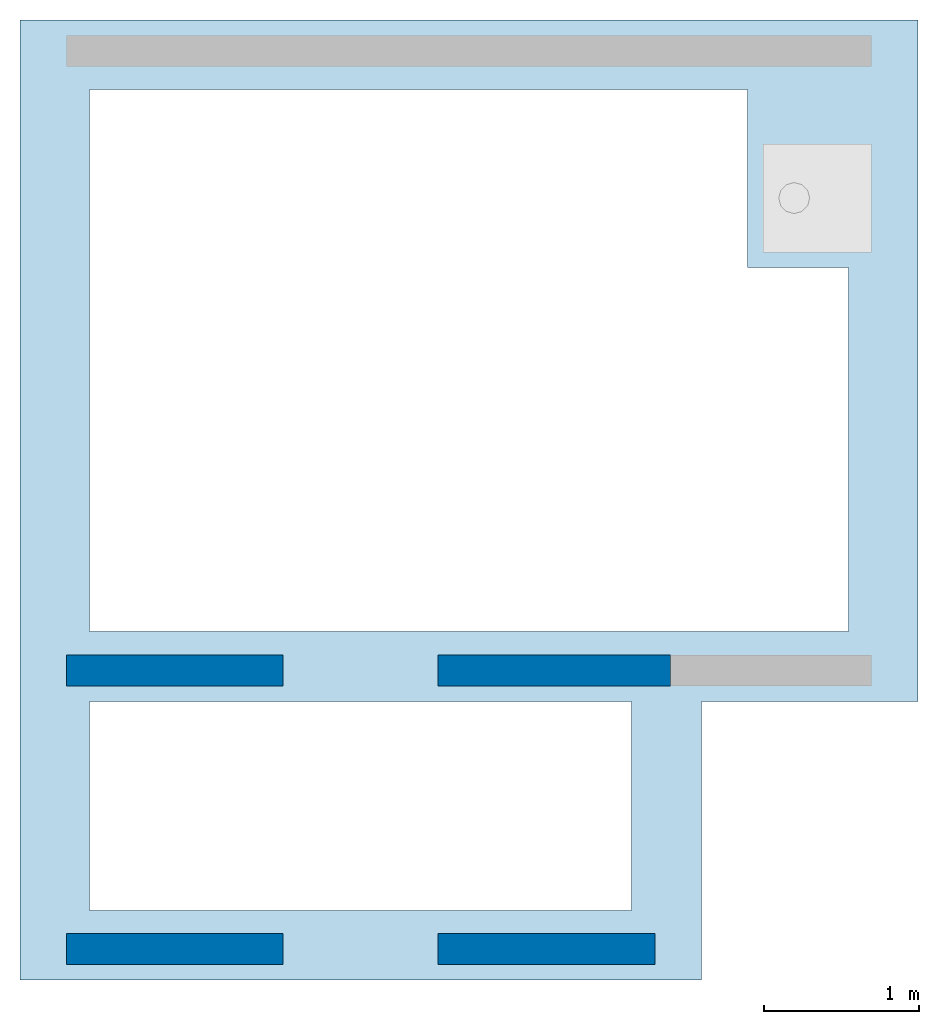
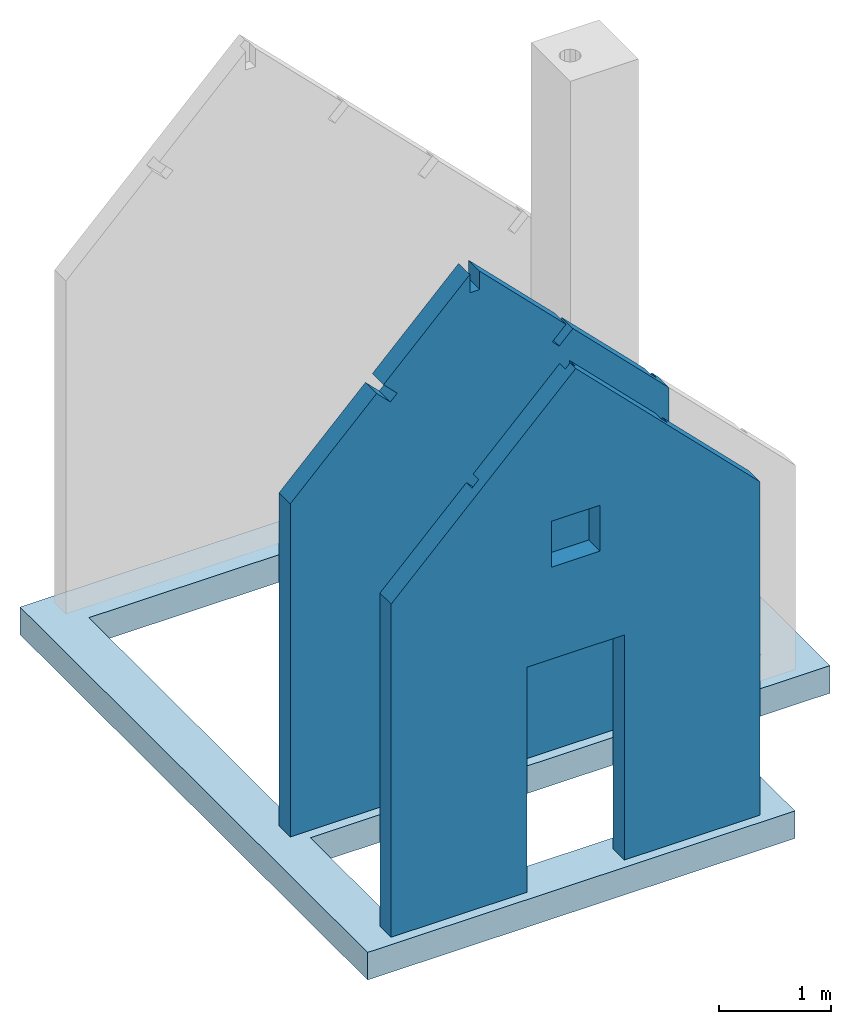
# One storey, part 1 of 2: 2 walls, 1 footing.
"""IFC4 building model written with IfcOpenShell, lengths in millimetres."""

from ifc_helpers import new_model, si_unit, frame, origin_with_axes, place, context, subcontext, project, spatial, triangles, material, type_object, element, save


model = new_model("IFC4")

# Units and contexts
model_context = context("Model", 3, world=origin_with_axes())
body_context = subcontext(model_context, "Body", "Model", "MODEL_VIEW")
ifc_project = project(units=[si_unit("LENGTHUNIT", "METRE", prefix="MILLI"), si_unit("AREAUNIT", "SQUARE_METRE"), si_unit("VOLUMEUNIT", "CUBIC_METRE")], contexts=[model_context])

# Sites, building, storey
site_1_placement = place(None, origin_with_axes())
site_1 = spatial("IfcSite", under=ifc_project, at=site_1_placement, Name="environment - site", CompositionType="COMPLEX")
site_2_placement = place(site_1_placement, frame((5800.000000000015, 5800.000000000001, -1300.0000000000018), z_axis=(0.0, 0.0, 1.0), x_axis=(1.0, 0.0, 0.0)))
site_2 = spatial("IfcSite", under=site_1, at=site_2_placement, Name="house - site", CompositionType="PARTIAL")
building_placement = place(site_2_placement, frame((-2799.999999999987, -2799.9999999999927, 1300.0), z_axis=(0.0, 0.0, 1.0), x_axis=(1.0, 0.0, 0.0)))
building = spatial("IfcBuilding", under=site_2, at=building_placement, Name="Single-family house", CompositionType="ELEMENT")
storey_placement = place(building_placement, origin_with_axes())
storey = spatial("IfcBuildingStorey", under=building, at=storey_placement, Name="00 groundfloor", CompositionType="ELEMENT", Elevation=-1.8047785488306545e-12)

# Footing
ifc_material_1 = material(Name="concrete_reinforced_in-situ")
footing_type = type_object("IfcFootingType", Name="house - foundation", PredefinedType="STRIP_FOOTING")
footing_placement = place(storey_placement, frame((0.0, 2.5988811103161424e-11, -499.9999999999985), z_axis=(0.0, 0.0, 1.0), x_axis=(1.0, 0.0, 0.0)))
element("IfcFooting", 1, at=footing_placement, inside=storey, type_object=footing_type, material=ifc_material_1, Name="house - foundation", ObjectType="strip_footing", context=body_context, shape_type="Tessellation", body=[
    triangles([(4300.00000000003, -100.00000000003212, 249.99999999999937), (-100.00000000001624, -100.00000000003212, -50.00000000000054), (4300.00000000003, -100.00000000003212, -50.00000000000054), (-100.00000000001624, -100.00000000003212, 249.99999999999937), (350.0000000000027, 349.9999999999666, -50.00000000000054), (3850.000000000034, 349.9999999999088, 249.99999999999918), (3850.000000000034, 349.9999999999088, -50.00000000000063), (350.0000000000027, 349.9999999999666, 249.9999999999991), (350.0000000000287, 1699.999999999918, -50.00000000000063), (350.0000000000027, 349.9999999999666, 249.9999999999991), (350.0000000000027, 349.9999999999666, -50.00000000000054), (350.0000000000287, 1699.999999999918, 249.9999999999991), (3850.000000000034, 1699.9999999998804, -50.00000000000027), (350.0000000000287, 1699.999999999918, 249.9999999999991), (350.0000000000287, 1699.999999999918, -50.00000000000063), (3850.000000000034, 1699.9999999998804, 249.9999999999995), (350.0000000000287, 2149.999999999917, 249.99999999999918), (5250.000000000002, 2149.9999999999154, -49.99999999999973), (350.0000000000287, 2149.999999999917, -50.00000000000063), (5250.000000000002, 2149.9999999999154, 250.00000000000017), (350.00000000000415, 5649.999999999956, -50.000000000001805), (350.0000000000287, 2149.999999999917, 249.99999999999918), (350.0000000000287, 2149.999999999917, -50.00000000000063), (350.00000000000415, 5649.999999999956, 249.99999999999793), (3850.000000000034, 1699.9999999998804, 249.9999999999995), (3850.000000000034, 349.9999999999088, -50.00000000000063), (3850.000000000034, 349.9999999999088, 249.99999999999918), (3850.000000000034, 1699.9999999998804, -50.00000000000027), (4300.000000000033, 1699.9999999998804, -50.00000000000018), (4300.00000000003, -100.00000000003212, 249.99999999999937), (4300.00000000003, -100.00000000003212, -50.00000000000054), (4300.000000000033, 1699.9999999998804, 249.99999999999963), (5700.0, 1699.9999999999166, 249.9999999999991), (4300.000000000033, 1699.9999999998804, -50.00000000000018), (5700.0, 1699.9999999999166, -50.00000000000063), (4300.000000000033, 1699.9999999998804, 249.99999999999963), (-100.00000000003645, 6099.999999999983, 249.99999999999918), (-100.00000000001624, -100.00000000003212, -50.00000000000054), (-100.00000000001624, -100.00000000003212, 249.99999999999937), (-100.00000000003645, 6099.999999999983, -50.00000000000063), (-100.00000000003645, 6099.999999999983, -50.00000000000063), (350.00000000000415, 5649.999999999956, -50.000000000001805), (-100.00000000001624, -100.00000000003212, -50.00000000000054), (5700.000000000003, 6099.999999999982, -50.00000000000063), (350.0000000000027, 349.9999999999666, -50.00000000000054), (4600.000000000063, 5649.999999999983, -50.00000000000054), (4600.000000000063, 4499.999999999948, -49.99999999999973), (5250.000000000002, 4499.999999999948, -50.00000000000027), (5250.000000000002, 2149.9999999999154, -49.99999999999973), (5700.0, 1699.9999999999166, -50.00000000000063), (350.0000000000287, 1699.999999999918, -50.00000000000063), (350.0000000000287, 2149.999999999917, -50.00000000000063), (3850.000000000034, 1699.9999999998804, -50.00000000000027), (4300.000000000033, 1699.9999999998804, -50.00000000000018), (3850.000000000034, 349.9999999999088, -50.00000000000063), (4300.00000000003, -100.00000000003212, -50.00000000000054), (4300.00000000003, -100.00000000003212, 249.99999999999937), (350.0000000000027, 349.9999999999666, 249.9999999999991), (-100.00000000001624, -100.00000000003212, 249.99999999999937), (3850.000000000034, 349.9999999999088, 249.99999999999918), (3850.000000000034, 1699.9999999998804, 249.9999999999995), (5250.000000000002, 4499.999999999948, 249.99999999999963), (4600.000000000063, 5649.999999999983, 249.99999999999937), (4600.000000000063, 4499.999999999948, 250.00000000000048), (350.0000000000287, 1699.999999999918, 249.9999999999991), (350.00000000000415, 5649.999999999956, 249.99999999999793), (350.0000000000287, 2149.999999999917, 249.99999999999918), (5250.000000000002, 2149.9999999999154, 250.00000000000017), (4300.000000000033, 1699.9999999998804, 249.99999999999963), (5700.0, 1699.9999999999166, 249.9999999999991), (-100.00000000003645, 6099.999999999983, 249.99999999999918), (5700.000000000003, 6099.999999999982, 249.99999999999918), (4600.000000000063, 5649.999999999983, -50.00000000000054), (350.00000000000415, 5649.999999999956, 249.99999999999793), (350.00000000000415, 5649.999999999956, -50.000000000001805), (4600.000000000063, 5649.999999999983, 249.99999999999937), (-100.00000000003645, 6099.999999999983, 249.99999999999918), (5700.000000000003, 6099.999999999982, -50.00000000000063), (-100.00000000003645, 6099.999999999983, -50.00000000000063), (5700.000000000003, 6099.999999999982, 249.99999999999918), (5700.000000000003, 6099.999999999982, -50.00000000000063), (5700.0, 1699.9999999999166, 249.9999999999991), (5700.0, 1699.9999999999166, -50.00000000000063), (5700.000000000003, 6099.999999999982, 249.99999999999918), (5250.000000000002, 4499.999999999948, 249.99999999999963), (5250.000000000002, 2149.9999999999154, -49.99999999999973), (5250.000000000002, 2149.9999999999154, 250.00000000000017), (5250.000000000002, 4499.999999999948, -50.00000000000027), (4600.000000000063, 5649.999999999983, 249.99999999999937), (4600.000000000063, 4499.999999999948, -49.99999999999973), (4600.000000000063, 4499.999999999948, 250.00000000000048), (4600.000000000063, 5649.999999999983, -50.00000000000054), (5250.000000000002, 4499.999999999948, 249.99999999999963), (4600.000000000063, 4499.999999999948, -49.99999999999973), (5250.000000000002, 4499.999999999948, -50.00000000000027), (4600.000000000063, 4499.999999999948, 250.00000000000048)], [[1, 2, 3], [2, 1, 4], [5, 6, 7], [6, 5, 8], [9, 10, 11], [10, 9, 12], [13, 14, 15], [14, 13, 16], [17, 18, 19], [18, 17, 20], [21, 22, 23], [22, 21, 24], [25, 26, 27], [26, 25, 28], [29, 30, 31], [30, 29, 32], [33, 34, 35], [34, 33, 36], [37, 38, 39], [38, 37, 40], [41, 42, 43], [42, 41, 44], [43, 42, 45], [42, 44, 46], [46, 44, 47], [47, 44, 48], [48, 44, 49], [49, 44, 50], [42, 51, 45], [51, 42, 52], [51, 52, 49], [51, 49, 53], [53, 49, 54], [53, 54, 55], [55, 54, 56], [54, 49, 50], [45, 56, 43], [56, 45, 55], [57, 58, 59], [58, 57, 60], [60, 57, 61], [62, 63, 64], [65, 66, 58], [66, 65, 67], [67, 65, 61], [67, 61, 68], [68, 61, 69], [69, 61, 57], [68, 69, 70], [68, 70, 62], [71, 66, 72], [66, 71, 59], [66, 59, 58], [72, 66, 63], [72, 63, 62], [72, 62, 70], [73, 74, 75], [74, 73, 76], [77, 78, 79], [78, 77, 80], [81, 82, 83], [82, 81, 84], [85, 86, 87], [86, 85, 88], [89, 90, 91], [90, 89, 92], [93, 94, 95], [94, 93, 96]]),
])

# Walls
ifc_material_2 = material(Name="stone_sand-lime")
wall_type_1 = type_object("IfcWallType", Name="house - outer wall - house front", PredefinedType="SOLIDWALL")
wall_1_placement = place(storey_placement, frame((0.0, 0.0, 0.0), z_axis=(0.0, 0.0, 1.0), x_axis=(1.0, -7.105427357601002e-16, 0.0)))
element("IfcWall", 2, at=wall_1_placement, inside=storey, type_object=wall_type_1, material=ifc_material_2, Name="house - outer wall - house front", ObjectType="solidwall", context=body_context, shape_type="Tessellation", body=[
    triangles([(2349.9999999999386, -5.775291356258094e-11, 3200.0000000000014), (1849.999999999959, 199.99999999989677, 3200.0000000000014), (1849.9999999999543, -5.775291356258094e-11, 3200.0000000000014), (2349.999999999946, 199.99999999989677, 3200.0000000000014), (2600.000000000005, 200.0000000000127, 2200.0000000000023), (1599.9999999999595, 4.511946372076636e-13, 2200.0000000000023), (1599.9999999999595, 200.0000000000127, 2200.0000000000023), (2600.000000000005, 4.511946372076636e-13, 2200.0000000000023), (1599.9999999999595, 200.0000000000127, -250.00000000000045), (1599.9999999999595, 4.511946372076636e-13, 2200.0000000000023), (1599.9999999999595, 0.0, -250.00000000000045), (1599.9999999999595, 200.0000000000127, 2200.0000000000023), (2600.000000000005, 200.0000000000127, 2200.0000000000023), (2600.000000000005, 4.511946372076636e-13, -250.00000000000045), (2600.000000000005, 4.511946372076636e-13, 2200.0000000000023), (2600.000000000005, 200.0000000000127, -250.00000000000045), (1849.999999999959, 199.99999999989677, 3700.0000000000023), (2349.9999999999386, -5.775291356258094e-11, 3699.9999999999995), (1849.9999999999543, -5.775291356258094e-11, 3699.9999999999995), (2349.999999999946, 199.99999999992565, 3700.0000000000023), (200.0000000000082, 200.00000000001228, -250.00000000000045), (1599.9999999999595, 0.0, -250.00000000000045), (200.00000000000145, 0.0, -250.00000000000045), (1599.9999999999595, 200.0000000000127, -250.00000000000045), (1849.999999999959, 199.99999999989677, 3200.0000000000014), (1849.9999999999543, -5.775291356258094e-11, 3699.9999999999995), (1849.9999999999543, -5.775291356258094e-11, 3200.0000000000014), (1849.999999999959, 199.99999999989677, 3700.0000000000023), (2349.999999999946, 199.99999999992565, 3700.0000000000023), (2349.9999999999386, -5.775291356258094e-11, 3200.0000000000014), (2349.9999999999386, -5.775291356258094e-11, 3699.9999999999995), (2349.999999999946, 199.99999999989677, 3200.0000000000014), (2600.000000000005, 200.0000000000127, 2200.0000000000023), (4000.0000000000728, 200.00000000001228, -250.00000000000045), (2600.000000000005, 200.0000000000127, -250.00000000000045), (4000.0000000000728, 199.9999999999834, 3375.735931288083), (2349.999999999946, 199.99999999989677, 3200.0000000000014), (1849.999999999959, 199.99999999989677, 3200.0000000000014), (2349.999999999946, 199.99999999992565, 3700.0000000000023), (2968.9339828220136, 199.9999999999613, 4123.959235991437), (3110.35533905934, 199.99999999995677, 4265.380592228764), (200.00000000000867, 199.9999999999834, 3375.735931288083), (1599.9999999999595, 200.0000000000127, -250.00000000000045), (200.0000000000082, 200.00000000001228, -250.00000000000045), (1599.9999999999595, 200.0000000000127, 2200.0000000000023), (1849.999999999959, 199.99999999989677, 3700.0000000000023), (1231.0660171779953, 199.9999999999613, 4123.959235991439), (1089.644660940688, 199.99999999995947, 4265.380592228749), (2898.2233047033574, 199.99999999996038, 4194.669914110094), (1301.7766952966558, 199.99999999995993, 4194.669914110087), (1160.3553390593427, 199.99999999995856, 4336.091270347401), (3039.6446609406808, 199.99999999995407, 4336.0912703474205), (2049.9999999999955, 199.99999999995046, 5025.735931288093), (2049.9999999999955, 199.99999999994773, 5225.735931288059), (2149.999999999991, 199.99999999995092, 5025.735931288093), (2149.9999999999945, 199.99999999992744, 5225.735931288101), (200.00000000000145, -2.887645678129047e-11, 3375.7359312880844), (1089.6446609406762, 99.99999999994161, 4265.380592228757), (200.00000000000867, 199.9999999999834, 3375.735931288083), (2100.00000000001, -8.662937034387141e-11, 5275.735931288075), (1160.3553390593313, 99.99999999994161, 4336.091270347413), (1160.3553390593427, 199.99999999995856, 4336.091270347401), (2050.0000000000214, 99.99999999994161, 5225.735931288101), (2049.9999999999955, 199.99999999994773, 5225.735931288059), (2099.999999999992, 99.9999999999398, 5275.7359312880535), (1089.644660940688, 199.99999999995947, 4265.380592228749), (1089.6446609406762, 99.99999999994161, 4265.380592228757), (1266.4213562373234, 99.99999999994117, 4159.314575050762), (1231.0660171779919, 99.99999999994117, 4123.959235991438), (1301.776695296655, 99.99999999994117, 4194.669914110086), (1160.3553390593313, 99.99999999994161, 4336.091270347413), (2933.57864376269, 99.99999999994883, 4159.314575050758), (3110.35533905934, 99.99999999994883, 4265.380592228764), (2968.933982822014, 99.99999999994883, 4123.959235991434), (2898.2233047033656, 99.99999999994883, 4194.669914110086), (3039.6446609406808, 99.99999999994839, 4336.0912703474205), (2149.9999999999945, 199.99999999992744, 5225.735931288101), (2149.9999999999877, 99.99999999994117, 5025.735931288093), (2149.9999999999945, 99.99999999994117, 5225.735931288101), (2149.999999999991, 199.99999999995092, 5025.735931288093), (1231.0660171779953, 199.9999999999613, 4123.959235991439), (1089.6446609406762, 99.99999999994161, 4265.380592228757), (1231.0660171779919, 99.99999999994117, 4123.959235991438), (1089.644660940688, 199.99999999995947, 4265.380592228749), (2049.9999999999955, 199.99999999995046, 5025.735931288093), (2050.0000000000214, 99.99999999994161, 5225.735931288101), (2049.9999999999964, 99.99999999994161, 5025.735931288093), (2049.9999999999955, 199.99999999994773, 5225.735931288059), (1160.3553390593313, 99.99999999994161, 4336.091270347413), (1301.7766952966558, 199.99999999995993, 4194.669914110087), (1301.776695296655, 99.99999999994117, 4194.669914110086), (1160.3553390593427, 199.99999999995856, 4336.091270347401), (2898.2233047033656, 99.99999999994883, 4194.669914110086), (3039.6446609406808, 199.99999999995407, 4336.0912703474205), (3039.6446609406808, 99.99999999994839, 4336.0912703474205), (2898.2233047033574, 199.99999999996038, 4194.669914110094), (3110.35533905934, 199.99999999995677, 4265.380592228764), (2968.933982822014, 99.99999999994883, 4123.959235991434), (3110.35533905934, 99.99999999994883, 4265.380592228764), (2968.9339828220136, 199.9999999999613, 4123.959235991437), (2968.9339828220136, 199.9999999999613, 4123.959235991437), (2933.57864376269, 99.99999999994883, 4159.314575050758), (2968.933982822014, 99.99999999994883, 4123.959235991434), (2898.2233047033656, 99.99999999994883, 4194.669914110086), (2898.2233047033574, 199.99999999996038, 4194.669914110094), (2049.9999999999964, 99.99999999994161, 5025.735931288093), (2149.999999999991, 199.99999999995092, 5025.735931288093), (2049.9999999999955, 199.99999999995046, 5025.735931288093), (2099.999999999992, 99.99999999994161, 5025.735931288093), (2149.9999999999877, 99.99999999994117, 5025.735931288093), (1266.4213562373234, 99.99999999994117, 4159.314575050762), (1231.0660171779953, 199.9999999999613, 4123.959235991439), (1231.0660171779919, 99.99999999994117, 4123.959235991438), (1301.7766952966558, 199.99999999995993, 4194.669914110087), (1301.776695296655, 99.99999999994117, 4194.669914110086), (2050.0000000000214, 99.99999999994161, 5225.735931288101), (2099.999999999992, 99.99999999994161, 5025.735931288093), (2049.9999999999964, 99.99999999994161, 5025.735931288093), (2149.9999999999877, 99.99999999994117, 5025.735931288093), (2149.9999999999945, 99.99999999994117, 5225.735931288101), (2099.999999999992, 99.9999999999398, 5275.7359312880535), (200.00000000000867, 199.9999999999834, 3375.735931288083), (200.00000000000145, 0.0, -250.00000000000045), (200.00000000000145, -2.887645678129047e-11, 3375.7359312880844), (200.0000000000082, 200.00000000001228, -250.00000000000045), (2100.00000000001, -8.662937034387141e-11, 5275.735931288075), (2149.9999999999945, 99.99999999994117, 5225.735931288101), (2099.999999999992, 99.9999999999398, 5275.7359312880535), (4000.0000000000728, -3.4290792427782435e-11, 3375.735931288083), (3039.6446609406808, 99.99999999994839, 4336.0912703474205), (2149.9999999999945, 199.99999999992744, 5225.735931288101), (3110.35533905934, 99.99999999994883, 4265.380592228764), (3110.35533905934, 199.99999999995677, 4265.380592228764), (4000.0000000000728, 199.9999999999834, 3375.735931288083), (3039.6446609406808, 199.99999999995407, 4336.0912703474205), (4000.0000000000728, -3.4290792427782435e-11, -250.00000000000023), (2600.000000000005, 4.511946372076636e-13, 2200.0000000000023), (2600.000000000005, 4.511946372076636e-13, -250.00000000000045), (4000.0000000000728, -3.4290792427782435e-11, 3375.735931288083), (1599.9999999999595, 4.511946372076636e-13, 2200.0000000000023), (2349.9999999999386, -5.775291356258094e-11, 3200.0000000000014), (2349.9999999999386, -5.775291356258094e-11, 3699.9999999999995), (2100.00000000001, -8.662937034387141e-11, 5275.735931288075), (1849.9999999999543, -5.775291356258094e-11, 3699.9999999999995), (200.00000000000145, 0.0, -250.00000000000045), (1599.9999999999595, 0.0, -250.00000000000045), (200.00000000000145, -2.887645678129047e-11, 3375.7359312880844), (1849.9999999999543, -5.775291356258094e-11, 3200.0000000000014), (4000.0000000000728, 200.00000000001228, -250.00000000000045), (4000.0000000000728, -3.4290792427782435e-11, 3375.735931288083), (4000.0000000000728, -3.4290792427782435e-11, -250.00000000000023), (4000.0000000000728, 199.9999999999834, 3375.735931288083), (4000.0000000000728, 200.00000000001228, -250.00000000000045), (2600.000000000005, 4.511946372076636e-13, -250.00000000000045), (2600.000000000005, 200.0000000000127, -250.00000000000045), (4000.0000000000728, -3.4290792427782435e-11, -250.00000000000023)], [[1, 2, 3], [2, 1, 4], [5, 6, 7], [6, 5, 8], [9, 10, 11], [10, 9, 12], [13, 14, 15], [14, 13, 16], [17, 18, 19], [18, 17, 20], [21, 22, 23], [22, 21, 24], [25, 26, 27], [26, 25, 28], [29, 30, 31], [30, 29, 32], [33, 34, 35], [34, 33, 36], [36, 33, 37], [37, 33, 38], [36, 37, 39], [36, 39, 40], [36, 40, 41], [42, 43, 44], [43, 42, 45], [45, 42, 33], [33, 42, 38], [38, 42, 46], [46, 42, 47], [47, 42, 48], [46, 47, 39], [39, 47, 40], [47, 49, 40], [49, 47, 50], [49, 50, 51], [49, 51, 52], [52, 51, 53], [53, 51, 54], [52, 55, 56], [55, 52, 53], [57, 58, 59], [58, 57, 60], [58, 60, 61], [61, 60, 62], [62, 60, 63], [62, 63, 64], [63, 60, 65], [66, 59, 58], [67, 68, 69], [68, 67, 70], [70, 67, 71], [72, 73, 74], [73, 72, 75], [73, 75, 76], [77, 78, 79], [78, 77, 80], [81, 82, 83], [82, 81, 84], [85, 86, 87], [86, 85, 88], [89, 90, 91], [90, 89, 92], [93, 94, 95], [94, 93, 96], [97, 98, 99], [98, 97, 100], [101, 102, 103], [102, 101, 104], [104, 101, 105], [106, 107, 108], [107, 106, 109], [107, 109, 110], [111, 112, 113], [112, 111, 114], [114, 111, 115], [116, 117, 118], [117, 116, 119], [119, 116, 120], [120, 116, 121], [122, 123, 124], [123, 122, 125], [126, 127, 128], [127, 126, 129], [127, 129, 130], [127, 130, 131], [130, 129, 132], [132, 129, 133], [133, 129, 134], [135, 131, 130], [136, 137, 138], [137, 136, 139], [137, 139, 140], [140, 139, 141], [141, 139, 142], [142, 139, 143], [142, 143, 144], [140, 145, 146], [145, 140, 147], [147, 140, 148], [148, 140, 141], [147, 148, 144], [147, 144, 143], [149, 150, 151], [150, 149, 152], [153, 154, 155], [154, 153, 156]]),
])
wall_type_2 = type_object("IfcWallType", Name="house - inner wall", PredefinedType="SOLIDWALL")
placement = place(storey_placement, frame((200.00000000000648, 1799.9999999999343, -250.00000000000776), z_axis=(0.0, 0.0, 1.0), x_axis=(1.0, 0.0, 0.0)))
wall_2_placement = place(placement, frame((3900.000000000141, 100.00000000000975, 249.99999999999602), z_axis=(7.573624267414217e-15, -7.241703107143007e-30, 1.0), x_axis=(-1.0, -1.0746492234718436e-14, 7.573624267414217e-15)))
element("IfcWall", 3, at=wall_2_placement, inside=storey, type_object=wall_type_2, material=ifc_material_2, Name="house - inner wall", ObjectType="solidwall", context=body_context, shape_type="Tessellation", body=[
    triangles([(2500.000000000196, 99.99999999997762, 2199.9999999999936), (1500.0000000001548, -100.0000000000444, 2200.000000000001), (1500.0000000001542, 99.99999999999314, 2200.000000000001), (2500.0000000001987, -100.00000000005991, 2199.9999999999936), (1500.0000000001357, 99.99999999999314, -250.0), (1500.0000000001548, -100.0000000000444, 2200.000000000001), (1500.0000000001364, -100.0000000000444, -250.0), (1500.0000000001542, 99.99999999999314, 2200.000000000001), (-7.219114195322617e-13, 99.99999999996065, -249.99999999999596), (1500.0000000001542, 99.99999999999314, 2200.000000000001), (1500.0000000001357, 99.99999999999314, -250.0), (-7.219114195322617e-13, 99.99999999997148, 3275.735931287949), (2500.000000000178, 99.99999999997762, -250.0000000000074), (3900.0000000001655, 99.99999999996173, 3375.73593128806), (3900.0000000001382, 99.99999999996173, -250.000000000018), (2500.000000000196, 99.99999999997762, 2199.9999999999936), (1131.0660171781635, 99.99999999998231, 4123.959235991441), (989.644660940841, 99.99999999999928, 4265.380592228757), (2868.9339828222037, 99.99999999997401, 4123.959235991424), (1950.0000000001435, 99.99999999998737, 5225.7359312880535), (1950.0000000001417, 99.99999999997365, 5025.73593128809), (1060.355339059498, 99.9999999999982, 4336.091270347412), (2798.223304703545, 99.99999999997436, 4194.669914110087), (1201.7766952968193, 99.99999999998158, 4194.669914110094), (2939.6446609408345, 99.99999999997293, 4336.09127034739), (2050.000000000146, 99.99999999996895, 5025.73593128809), (2050.0000000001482, 99.99999999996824, 5225.7359312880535), (3010.355339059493, 99.99999999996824, 4265.380592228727), (1950.0000000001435, 99.99999999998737, 5225.7359312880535), (1060.355339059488, -100.00000000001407, 4336.091270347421), (1950.0000000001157, -100.00000000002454, 5225.735931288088), (1060.355339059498, 99.9999999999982, 4336.091270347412), (2500.000000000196, 99.99999999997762, 2199.9999999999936), (2500.0000000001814, -100.00000000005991, -250.0000000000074), (2500.0000000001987, -100.00000000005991, 2199.9999999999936), (2500.000000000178, 99.99999999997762, -250.0000000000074), (2050.000000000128, -100.00000000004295, 5025.735931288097), (1950.0000000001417, 99.99999999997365, 5025.73593128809), (1950.0000000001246, -100.00000000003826, 5025.735931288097), (2050.000000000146, 99.99999999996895, 5025.73593128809), (2939.644660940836, -100.000000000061, 4336.09127034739), (2050.0000000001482, 99.99999999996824, 5225.7359312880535), (2050.0000000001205, -100.0000000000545, 5225.735931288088), (2939.6446609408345, 99.99999999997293, 4336.09127034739), (64.64466094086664, -99.99999999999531, 3340.3805922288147), (-7.219114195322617e-13, 99.99999999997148, 3275.735931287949), (-1.4438228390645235e-12, -100.00000000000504, 3275.735931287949), (64.64466094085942, -4.620233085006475e-11, 3340.380592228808), (989.6446609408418, -100.00000000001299, 4265.380592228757), (135.35533905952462, -4.8007109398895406e-11, 3411.091270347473), (135.35533905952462, -99.99999999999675, 3411.091270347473), (989.644660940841, 99.99999999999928, 4265.380592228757), (241.421356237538, -4.9089976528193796e-11, 3234.3145750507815), (64.64466094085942, -4.620233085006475e-11, 3340.380592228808), (206.06601717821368, -4.9089976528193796e-11, 3198.9592359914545), (276.7766952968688, -4.945093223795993e-11, 3269.6699141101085), (135.35533905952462, -4.8007109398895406e-11, 3411.091270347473), (135.35533905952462, -99.99999999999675, 3411.091270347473), (276.7766952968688, -4.945093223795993e-11, 3269.6699141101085), (276.776695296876, -100.00000000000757, 3269.6699141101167), (135.35533905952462, -4.8007109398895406e-11, 3411.091270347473), (206.06601717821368, -4.9089976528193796e-11, 3198.9592359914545), (64.64466094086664, -99.99999999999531, 3340.3805922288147), (206.0660171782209, -100.00000000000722, 3198.959235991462), (64.64466094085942, -4.620233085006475e-11, 3340.380592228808), (2050.0000000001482, 99.99999999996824, 5225.7359312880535), (2050.000000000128, -100.00000000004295, 5025.735931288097), (2050.0000000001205, -100.0000000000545, 5225.735931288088), (2050.000000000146, 99.99999999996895, 5025.73593128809), (1950.0000000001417, 99.99999999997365, 5025.73593128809), (1950.0000000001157, -100.00000000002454, 5225.735931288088), (1950.0000000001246, -100.00000000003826, 5025.735931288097), (1950.0000000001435, 99.99999999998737, 5225.7359312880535), (989.6446609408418, -100.00000000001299, 4265.380592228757), (1131.0660171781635, 99.99999999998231, 4123.959235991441), (989.644660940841, 99.99999999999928, 4265.380592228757), (1131.0660171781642, -100.00000000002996, 4123.959235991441), (206.0660171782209, -100.00000000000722, 3198.959235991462), (241.421356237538, -4.9089976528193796e-11, 3234.3145750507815), (206.06601717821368, -4.9089976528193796e-11, 3198.9592359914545), (276.776695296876, -100.00000000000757, 3269.6699141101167), (276.7766952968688, -4.945093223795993e-11, 3269.6699141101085), (2798.223304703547, -100.00000000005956, 4194.669914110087), (2939.6446609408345, 99.99999999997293, 4336.09127034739), (2939.644660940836, -100.000000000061, 4336.09127034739), (2798.223304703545, 99.99999999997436, 4194.669914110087), (3010.355339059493, 99.99999999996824, 4265.380592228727), (2868.933982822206, -100.00000000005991, 4123.959235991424), (3010.3553390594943, -100.00000000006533, 4265.380592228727), (2868.9339828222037, 99.99999999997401, 4123.959235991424), (1201.7766952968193, 99.99999999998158, 4194.669914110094), (1131.0660171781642, -100.00000000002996, 4123.959235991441), (1201.776695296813, -100.00000000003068, 4194.669914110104), (1131.0660171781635, 99.99999999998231, 4123.959235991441), (1060.355339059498, 99.9999999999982, 4336.091270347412), (1201.776695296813, -100.00000000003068, 4194.669914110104), (1060.355339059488, -100.00000000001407, 4336.091270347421), (1201.7766952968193, 99.99999999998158, 4194.669914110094), (2868.9339828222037, 99.99999999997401, 4123.959235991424), (2798.223304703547, -100.00000000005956, 4194.669914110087), (2868.933982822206, -100.00000000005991, 4123.959235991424), (2798.223304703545, 99.99999999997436, 4194.669914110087), (3010.3553390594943, -100.00000000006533, 4265.380592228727), (3900.0000000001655, 99.99999999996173, 3375.73593128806), (3010.355339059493, 99.99999999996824, 4265.380592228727), (3900.0000000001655, -100.0000000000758, 3375.73593128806), (3900.0000000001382, 99.99999999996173, -250.000000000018), (2500.0000000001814, -100.00000000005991, -250.0000000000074), (2500.000000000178, 99.99999999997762, -250.0000000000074), (3900.0000000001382, -100.0000000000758, -250.000000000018), (3900.0000000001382, 99.99999999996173, -250.000000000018), (3900.0000000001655, -100.0000000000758, 3375.73593128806), (3900.0000000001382, -100.0000000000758, -250.000000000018), (3900.0000000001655, 99.99999999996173, 3375.73593128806), (-7.219114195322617e-13, 99.99999999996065, -249.99999999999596), (1500.0000000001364, -100.0000000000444, -250.0), (-1.4438228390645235e-12, -100.00000000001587, -249.99999999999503), (1500.0000000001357, 99.99999999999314, -250.0), (3900.0000000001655, -100.0000000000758, 3375.73593128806), (2500.0000000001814, -100.00000000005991, -250.0000000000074), (3900.0000000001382, -100.0000000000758, -250.000000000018), (2500.0000000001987, -100.00000000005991, 2199.9999999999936), (1500.0000000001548, -100.0000000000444, 2200.000000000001), (206.0660171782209, -100.00000000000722, 3198.959235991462), (276.776695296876, -100.00000000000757, 3269.6699141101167), (135.35533905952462, -99.99999999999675, 3411.091270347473), (2868.933982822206, -100.00000000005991, 4123.959235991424), (3010.3553390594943, -100.00000000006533, 4265.380592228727), (2798.223304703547, -100.00000000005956, 4194.669914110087), (1131.0660171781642, -100.00000000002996, 4123.959235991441), (1201.776695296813, -100.00000000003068, 4194.669914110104), (2939.644660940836, -100.000000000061, 4336.09127034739), (1060.355339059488, -100.00000000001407, 4336.091270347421), (2050.000000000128, -100.00000000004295, 5025.735931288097), (2050.0000000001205, -100.0000000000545, 5225.735931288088), (1950.0000000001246, -100.00000000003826, 5025.735931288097), (1950.0000000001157, -100.00000000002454, 5225.735931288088), (989.6446609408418, -100.00000000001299, 4265.380592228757), (-1.4438228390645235e-12, -100.00000000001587, -249.99999999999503), (1500.0000000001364, -100.0000000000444, -250.0), (-1.4438228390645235e-12, -100.00000000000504, 3275.735931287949), (64.64466094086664, -99.99999999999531, 3340.3805922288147), (-1.4438228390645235e-12, -100.00000000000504, 3275.735931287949), (-7.219114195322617e-13, 99.99999999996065, -249.99999999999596), (-1.4438228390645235e-12, -100.00000000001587, -249.99999999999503), (-7.219114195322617e-13, 99.99999999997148, 3275.735931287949)], [[1, 2, 3], [2, 1, 4], [5, 6, 7], [6, 5, 8], [9, 10, 11], [10, 9, 12], [13, 14, 15], [14, 13, 16], [14, 16, 10], [14, 10, 12], [14, 12, 17], [17, 12, 18], [14, 17, 19], [20, 21, 22], [17, 23, 19], [23, 17, 24], [23, 24, 25], [25, 24, 22], [25, 22, 26], [25, 26, 27], [26, 22, 21], [28, 14, 19], [29, 30, 31], [30, 29, 32], [33, 34, 35], [34, 33, 36], [37, 38, 39], [38, 37, 40], [41, 42, 43], [42, 41, 44], [45, 46, 47], [46, 45, 48], [49, 50, 51], [50, 49, 52], [48, 52, 46], [52, 48, 50], [53, 54, 55], [54, 53, 56], [54, 56, 57], [58, 59, 60], [59, 58, 61], [62, 63, 64], [63, 62, 65], [66, 67, 68], [67, 66, 69], [70, 71, 72], [71, 70, 73], [74, 75, 76], [75, 74, 77], [78, 79, 80], [79, 78, 81], [79, 81, 82], [83, 84, 85], [84, 83, 86], [87, 88, 89], [88, 87, 90], [91, 92, 93], [92, 91, 94], [95, 96, 97], [96, 95, 98], [99, 100, 101], [100, 99, 102], [103, 104, 105], [104, 103, 106], [107, 108, 109], [108, 107, 110], [111, 112, 113], [112, 111, 114], [115, 116, 117], [116, 115, 118], [119, 120, 121], [120, 119, 122], [122, 119, 123], [123, 119, 124], [124, 119, 125], [125, 119, 126], [126, 119, 127], [127, 119, 128], [129, 130, 127], [130, 129, 131], [131, 129, 132], [131, 132, 133], [133, 132, 134], [134, 132, 135], [133, 136, 137], [136, 133, 134], [126, 130, 138], [130, 126, 127], [123, 139, 140], [139, 123, 141], [141, 123, 124], [141, 124, 142], [143, 144, 145], [144, 143, 146]]),
])

save(model, "model.ifc")
